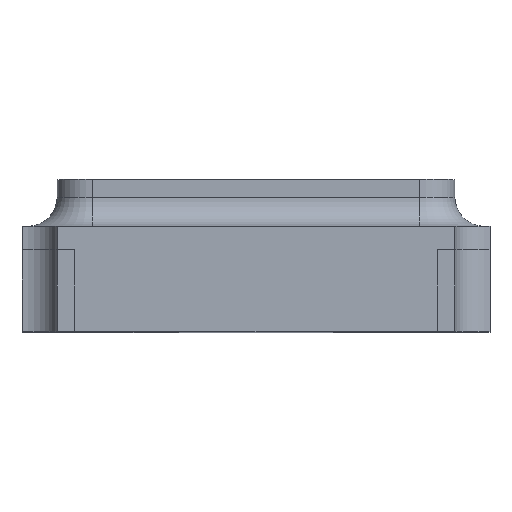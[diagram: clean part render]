
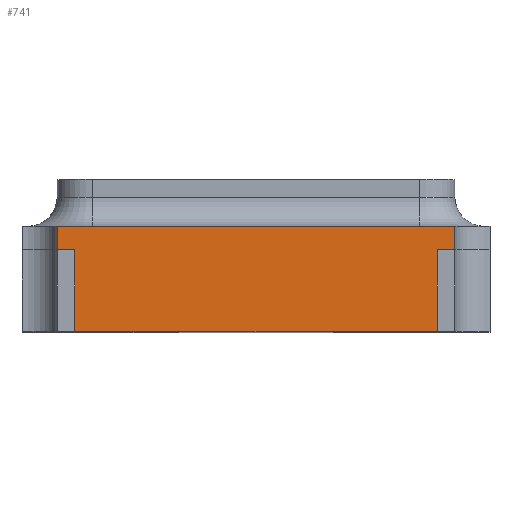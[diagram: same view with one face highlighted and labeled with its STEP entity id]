
A CAD part, top view. The second image highlights one B-rep face of the part: STEP entity #741.
In plain terms, the highlighted planar face has unit normal (0, 0, 1).
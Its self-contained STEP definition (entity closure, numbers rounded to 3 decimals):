
#24 = CARTESIAN_POINT ( 'NONE',  ( 0.85, 0.35, 1.25 ) ) ;
#96 = LINE ( 'NONE', #2842, #3034 ) ;
#112 = DIRECTION ( 'NONE',  ( 0., -1., 0. ) ) ;
#128 = CARTESIAN_POINT ( 'NONE',  ( 0.85, 0.45, 1.25 ) ) ;
#152 = EDGE_CURVE ( 'NONE', #1967, #1510, #165, .T. ) ;
#165 = LINE ( 'NONE', #1021, #2683 ) ;
#369 = ORIENTED_EDGE ( 'NONE', *, *, #3002, .T. ) ;
#408 = CARTESIAN_POINT ( 'NONE',  ( 0.775, 0.35, 1.25 ) ) ;
#423 = PLANE ( 'NONE',  #1356 ) ;
#466 = VECTOR ( 'NONE', #1102, 1000. ) ;
#586 = EDGE_CURVE ( 'NONE', #1967, #1505, #1681, .T. ) ;
#649 = VERTEX_POINT ( 'NONE', #671 ) ;
#671 = CARTESIAN_POINT ( 'NONE',  ( 0.775, 0., 1.25 ) ) ;
#673 = EDGE_CURVE ( 'NONE', #1505, #649, #1467, .T. ) ;
#741 = ADVANCED_FACE ( 'NONE', ( #1770 ), #423, .F. ) ;
#761 = EDGE_CURVE ( 'NONE', #3226, #649, #1308, .T. ) ;
#790 = LINE ( 'NONE', #1928, #2452 ) ;
#978 = EDGE_CURVE ( 'NONE', #2999, #3110, #1095, .T. ) ;
#986 = VERTEX_POINT ( 'NONE', #24 ) ;
#1019 = VECTOR ( 'NONE', #1696, 1000. ) ;
#1021 = CARTESIAN_POINT ( 'NONE',  ( 0., 0.35, 1.25 ) ) ;
#1066 = LINE ( 'NONE', #3239, #466 ) ;
#1095 = LINE ( 'NONE', #1621, #3373 ) ;
#1102 = DIRECTION ( 'NONE',  ( 0., -1., 0. ) ) ;
#1124 = EDGE_CURVE ( 'NONE', #3110, #986, #96, .T. ) ;
#1308 = LINE ( 'NONE', #2953, #2166 ) ;
#1356 = AXIS2_PLACEMENT_3D ( 'NONE', #1504, #2600, #1438 ) ;
#1391 = DIRECTION ( 'NONE',  ( -1., 0., 0. ) ) ;
#1415 = ORIENTED_EDGE ( 'NONE', *, *, #2249, .F. ) ;
#1416 = DIRECTION ( 'NONE',  ( 0., -1., 0. ) ) ;
#1438 = DIRECTION ( 'NONE',  ( -1., 0., 0. ) ) ;
#1451 = CARTESIAN_POINT ( 'NONE',  ( -0.775, 0.35, 1.25 ) ) ;
#1456 = CARTESIAN_POINT ( 'NONE',  ( -0.85, 0.35, 1.25 ) ) ;
#1467 = LINE ( 'NONE', #2870, #1019 ) ;
#1499 = ORIENTED_EDGE ( 'NONE', *, *, #586, .T. ) ;
#1504 = CARTESIAN_POINT ( 'NONE',  ( 0., 0.45, 1.25 ) ) ;
#1505 = VERTEX_POINT ( 'NONE', #2838 ) ;
#1510 = VERTEX_POINT ( 'NONE', #1456 ) ;
#1539 = DIRECTION ( 'NONE',  ( 0., -1., 0. ) ) ;
#1621 = CARTESIAN_POINT ( 'NONE',  ( 0., 0.45, 1.25 ) ) ;
#1681 = LINE ( 'NONE', #2725, #3237 ) ;
#1696 = DIRECTION ( 'NONE',  ( 1., 0., 0. ) ) ;
#1770 = FACE_OUTER_BOUND ( 'NONE', #2592, .T. ) ;
#1814 = ORIENTED_EDGE ( 'NONE', *, *, #978, .F. ) ;
#1928 = CARTESIAN_POINT ( 'NONE',  ( 0., 0.35, 1.25 ) ) ;
#1967 = VERTEX_POINT ( 'NONE', #1451 ) ;
#2166 = VECTOR ( 'NONE', #1539, 1000. ) ;
#2249 = EDGE_CURVE ( 'NONE', #986, #3226, #790, .T. ) ;
#2352 = DIRECTION ( 'NONE',  ( -1., 0., 0. ) ) ;
#2452 = VECTOR ( 'NONE', #1391, 1000. ) ;
#2464 = ORIENTED_EDGE ( 'NONE', *, *, #761, .F. ) ;
#2525 = ORIENTED_EDGE ( 'NONE', *, *, #1124, .F. ) ;
#2580 = ORIENTED_EDGE ( 'NONE', *, *, #673, .T. ) ;
#2592 = EDGE_LOOP ( 'NONE', ( #3381, #1499, #2580, #2464, #1415, #2525, #1814, #369 ) ) ;
#2600 = DIRECTION ( 'NONE',  ( 0., 0., -1. ) ) ;
#2683 = VECTOR ( 'NONE', #2352, 1000. ) ;
#2699 = CARTESIAN_POINT ( 'NONE',  ( -0.85, 0.45, 1.25 ) ) ;
#2721 = DIRECTION ( 'NONE',  ( 1., 0., 0. ) ) ;
#2725 = CARTESIAN_POINT ( 'NONE',  ( -0.775, 0.35, 1.25 ) ) ;
#2838 = CARTESIAN_POINT ( 'NONE',  ( -0.775, 0., 1.25 ) ) ;
#2842 = CARTESIAN_POINT ( 'NONE',  ( 0.85, 0.45, 1.25 ) ) ;
#2870 = CARTESIAN_POINT ( 'NONE',  ( 0., 0., 1.25 ) ) ;
#2953 = CARTESIAN_POINT ( 'NONE',  ( 0.775, 0.35, 1.25 ) ) ;
#2999 = VERTEX_POINT ( 'NONE', #2699 ) ;
#3002 = EDGE_CURVE ( 'NONE', #2999, #1510, #1066, .T. ) ;
#3034 = VECTOR ( 'NONE', #112, 1000. ) ;
#3110 = VERTEX_POINT ( 'NONE', #128 ) ;
#3226 = VERTEX_POINT ( 'NONE', #408 ) ;
#3237 = VECTOR ( 'NONE', #1416, 1000. ) ;
#3239 = CARTESIAN_POINT ( 'NONE',  ( -0.85, 0.45, 1.25 ) ) ;
#3373 = VECTOR ( 'NONE', #2721, 1000. ) ;
#3381 = ORIENTED_EDGE ( 'NONE', *, *, #152, .F. ) ;
